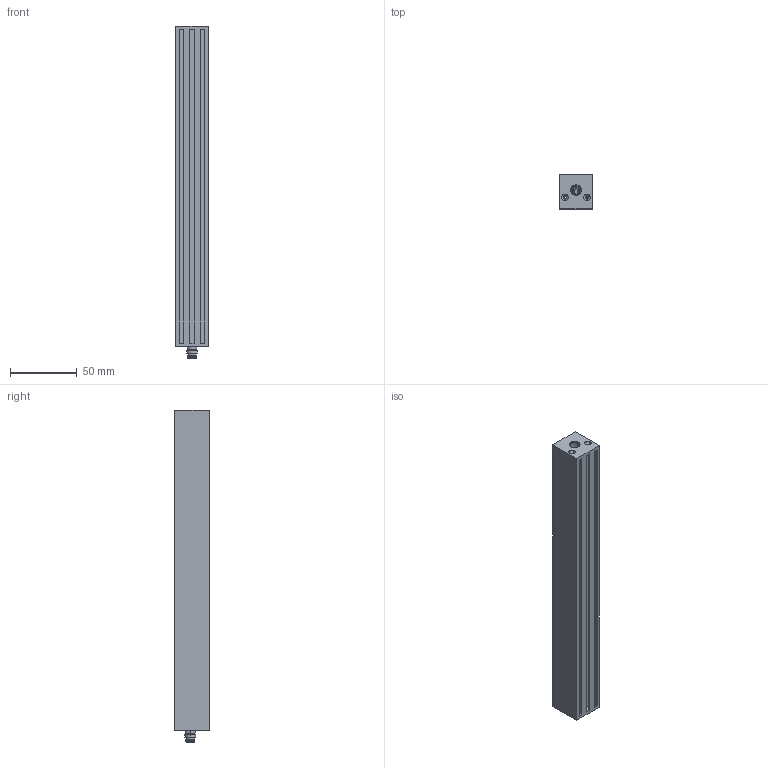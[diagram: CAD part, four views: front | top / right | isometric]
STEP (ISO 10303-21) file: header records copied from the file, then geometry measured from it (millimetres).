
FILE_DESCRIPTION(('STEP AP214'),'1');
FILE_NAME('F:/3D Zeichnungen/3D Modelle/tmp0.STEP','2019-12-10T12:37:41',(' '),(' '),'Spatial InterOp 3D',' ',' ');
FILE_SCHEMA(('automotive_design'));
Length unit declared in the file: millimetre
Products named in the file (1): 1
Bounding box: 24 x 25.5 x 248.7 mm (x, y, z)
Volume: 59751.6 mm3; surface area: 60078.5 mm2
Topology: 1 solids, 10 shells, 324 faces, 872 edges, 547 vertices
Faces by surface type: plane 139, cylinder 98, cone 76, torus 6, sphere 3, bspline 2
Entity records: 14261 total; most frequent: CARTESIAN_POINT 3620, ORIENTED_EDGE 1720, DIRECTION 1600, EDGE_CURVE 860, VERTEX_POINT 547, AXIS2_PLACEMENT_3D 538, LINE 524, VECTOR 524
